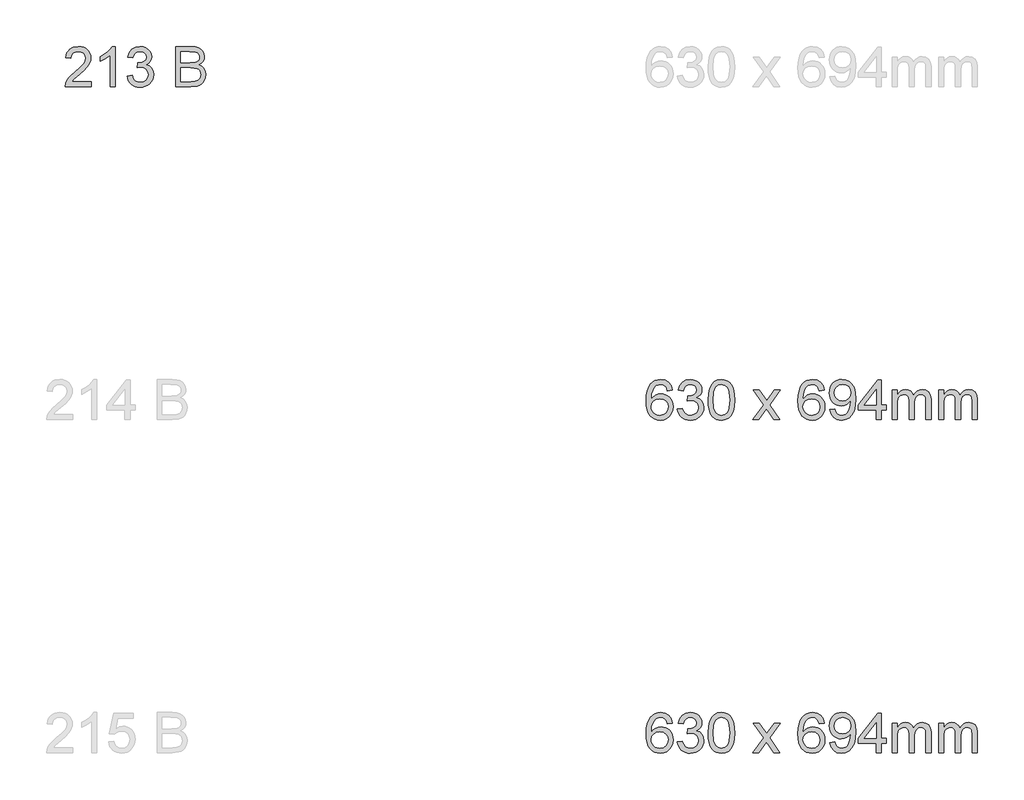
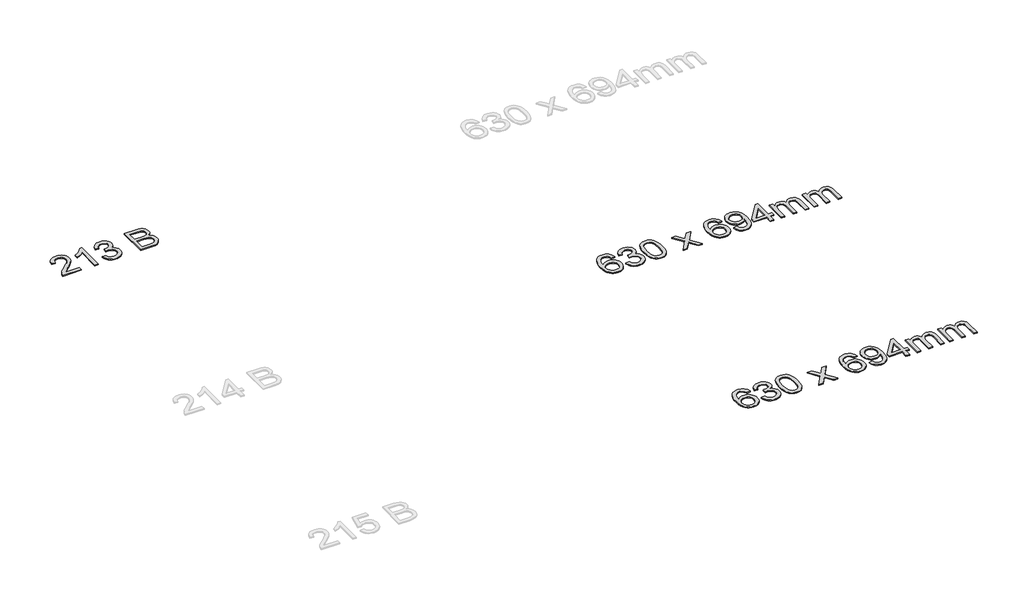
# One storey, part 31 of 35: 3 proxies.
"""IFC4 building model written with IfcOpenShell, lengths in millimetres."""

import ifcopenshell
import ifcopenshell.guid

model = None  # the IFC model being written
_history = None  # IfcOwnerHistory: only IFC2X3 demands one
_inside = {}  # id of a spatial element -> (the spatial element, [elements in it])
_under = {}  # id of a project, library or spatial element -> (it, [spatial elements below it])
_declared = {}  # id of a project -> (the project, [libraries it declares])
_typed = {}  # id of a type object -> (the type object, [elements of that type])
_made_of = {}  # id of a material, layer set ... -> (it, [elements and type objects made of it])


def new_model(schema):
    """Start an empty IFC model of exactly this schema.

    Asked for "IFC4X3", IfcOpenShell would pick the latest addendum, in which some entities
    have other attributes; the version numbers below select the first issue.
    IFC2X3 requires an IfcOwnerHistory on every rooted entity: one is made here for all.
    """
    global model, _history
    if schema == "IFC4X3":
        model = ifcopenshell.file(schema_version=(4, 3, 0, 0))
    else:
        model = ifcopenshell.file(schema=schema)
    _inside.clear()
    _under.clear()
    _declared.clear()
    _typed.clear()
    _made_of.clear()
    _history = None
    if model.schema == "IFC2X3":
        org = make("IfcOrganization", Name="unknown")
        user = make(
            "IfcPersonAndOrganization",
            ThePerson=make("IfcPerson", FamilyName="unknown"),
            TheOrganization=org,
        )
        app = make(
            "IfcApplication",
            ApplicationDeveloper=org,
            Version="unknown",
            ApplicationFullName="unknown",
            ApplicationIdentifier="unknown",
        )
        _history = make(
            "IfcOwnerHistory",
            OwningUser=user,
            OwningApplication=app,
            ChangeAction="ADDED",
            CreationDate=0,
        )
    return model


def make(cls, **values):
    """One entity of the class cls with the attributes given. An attribute that is None is left unset."""
    return model.create_entity(
        cls, **{name: value for name, value in values.items() if value is not None}
    )


def rooted(cls, **values):
    """An entity with a GlobalId (a new one), such as an element, a storey or a relation."""
    return make(cls, GlobalId=ifcopenshell.guid.new(), OwnerHistory=_history, **values)


def si_unit(unit_type, name, prefix=None):
    """IfcSIUnit, for example si_unit("LENGTHUNIT", "METRE", prefix="MILLI")."""
    return make("IfcSIUnit", UnitType=unit_type, Prefix=prefix, Name=name)


def assignment(units):
    """IfcUnitAssignment: the units of a project."""
    return None if units is None else make("IfcUnitAssignment", Units=units)


def point(xyz):
    """IfcCartesianPoint."""
    return None if xyz is None else make("IfcCartesianPoint", Coordinates=xyz)


def direction(xyz):
    """IfcDirection."""
    return None if xyz is None else make("IfcDirection", DirectionRatios=xyz)


def frame(location, z_axis=None, x_axis=None):
    """IfcAxis2Placement3D, a coordinate frame: its origin and axes. An axis left out is left unset."""
    return make(
        "IfcAxis2Placement3D",
        Location=point(location),
        Axis=direction(z_axis),
        RefDirection=direction(x_axis),
    )


def origin():
    """The frame at (0, 0, 0) with its axes left unset."""
    return frame((0.0, 0.0, 0.0))


def origin_with_axes():
    """The frame at (0, 0, 0) with the z axis (0, 0, 1) and the x axis (1, 0, 0) written out."""
    return frame((0.0, 0.0, 0.0), z_axis=(0.0, 0.0, 1.0), x_axis=(1.0, 0.0, 0.0))


def place(relative_to, where):
    """IfcLocalPlacement: puts the frame where relative to a parent placement (None: the world)."""
    return make(
        "IfcLocalPlacement", PlacementRelTo=relative_to, RelativePlacement=where
    )


def context(
    kind, dimensions, precision=None, world=None, true_north=None, identifier=None
):
    """IfcGeometricRepresentationContext, for example the 3D "Model" context."""
    return make(
        "IfcGeometricRepresentationContext",
        ContextIdentifier=identifier,
        ContextType=kind,
        CoordinateSpaceDimension=dimensions,
        Precision=precision,
        WorldCoordinateSystem=world,
        TrueNorth=true_north,
    )


def project(units=None, contexts=None):
    """IfcProject with its units and contexts."""
    return rooted(
        "IfcProject",
        Name="project",
        RepresentationContexts=contexts,
        UnitsInContext=assignment(units),
    )


def spatial(cls, under=None, at=None, **own):
    """A site, building, storey or space (cls), placed at a placement, below another one or the project."""
    s = rooted(cls, ObjectPlacement=at, **own)
    if under is not None:
        _under.setdefault(under.id(), (under, []))[1].append(s)
    return s


def polyline(points):
    """IfcPolyline through the points."""
    return make("IfcPolyline", Points=[point(p) for p in points])


def outline(outer, holes=None, kind="AREA"):
    """IfcArbitraryClosedProfileDef: a profile drawn as a closed curve; with holes, ...WithVoids."""
    if holes is None:
        return make("IfcArbitraryClosedProfileDef", ProfileType=kind, OuterCurve=outer)
    return make(
        "IfcArbitraryProfileDefWithVoids",
        ProfileType=kind,
        OuterCurve=outer,
        InnerCurves=holes,
    )


def extrude(swept, where, along, depth):
    """IfcExtrudedAreaSolid: the profile swept, set in the frame where, extruded along a direction by depth."""
    return make(
        "IfcExtrudedAreaSolid",
        SweptArea=swept,
        Position=where,
        ExtrudedDirection=direction(along),
        Depth=depth,
    )


def shape(context_of_items, identifier, shape_type, items):
    """IfcShapeRepresentation: the items that make up one representation, for example the "Body"."""
    return make(
        "IfcShapeRepresentation",
        ContextOfItems=context_of_items,
        RepresentationIdentifier=identifier,
        RepresentationType=shape_type,
        Items=items,
    )


def made_of(thing, what):
    """Note that an element or type object is made of a material, layer set ...; save() writes the relation."""
    if what is not None:
        _made_of.setdefault(what.id(), (what, []))[1].append(thing)
    return thing


def element(
    cls,
    number,
    at=None,
    inside=None,
    cuts=None,
    type_object=None,
    material=None,
    context=None,
    identifier="Body",
    shape_type=None,
    held_by="IfcProductDefinitionShape",
    body=None,
    shapes=None,
    **own,
):
    """One element of the class cls, such as IfcWall. Its Tag is "e" and its number.

    at: its placement. inside: the storey or other place that contains it. cuts: it is an
    opening in that element (IfcRelVoidsElement). A single representation is given by context,
    identifier, shape_type and body (its items); several are given by shapes. held_by: the class
    of the entity that holds the representations. save() writes the other relations.
    """
    e = rooted(cls, Tag="e%d" % number, ObjectPlacement=at, **own)
    if body is not None:
        shapes = [shape(context, identifier, shape_type, body)]
    if shapes is not None:
        e.Representation = make(held_by, Representations=shapes)
    if inside is not None:
        _inside.setdefault(inside.id(), (inside, []))[1].append(e)
    if cuts is not None:
        rooted(
            "IfcRelVoidsElement", RelatingBuildingElement=cuts, RelatedOpeningElement=e
        )
    if type_object is not None:
        _typed.setdefault(type_object.id(), (type_object, []))[1].append(e)
    return made_of(e, material)


def aggregate(whole, parts):
    """IfcRelAggregates: a whole, such as a stair, and the parts it consists of."""
    return rooted("IfcRelAggregates", RelatingObject=whole, RelatedObjects=parts)


def save(model, path):
    """Write the relations noted so far, then the file.

    IfcRelAggregates (storeys below a building ...), IfcRelContainedInSpatialStructure (elements
    in a storey), IfcRelDefinesByType, IfcRelAssociatesMaterial and IfcRelDeclares: one each for
    every whole, place, type object, material and project.
    """
    for whole, parts in _under.values():
        aggregate(whole, parts)
    for where, things in _inside.values():
        rooted(
            "IfcRelContainedInSpatialStructure",
            RelatedElements=things,
            RelatingStructure=where,
        )
    for kind, things in _typed.values():
        rooted("IfcRelDefinesByType", RelatedObjects=things, RelatingType=kind)
    for what, things in _made_of.values():
        rooted("IfcRelAssociatesMaterial", RelatedObjects=things, RelatingMaterial=what)
    for by, libraries in _declared.values():
        rooted("IfcRelDeclares", RelatingContext=by, RelatedDefinitions=libraries)
    model.write(path)


model = new_model("IFC4")

# Units and contexts
model_context = context("Model", 3, world=origin())
ifc_project = project(units=[si_unit("LENGTHUNIT", "METRE", prefix="MILLI")], contexts=[model_context])

# Site, building, storey
site = spatial("IfcSite", under=ifc_project)
building = spatial("IfcBuilding", under=site)
storey = spatial("IfcBuildingStorey", under=building, Name="Marelli - Linha YOU - Planta Baixa", Elevation=0.0)

# Proxies
placement = place(None, origin())
element("IfcBuildingElementProxy", 1, Name="300mm Arial", ObjectType="300mm Arial", at=placement, inside=storey, context=model_context, shape_type="SweptSolid", body=[
    extrude(outline(polyline([(-29510.11462, 6257.1047962), (-29510.11462, 6219.4336799), (-29707.8879806, 6219.4336799), (-29703.8412787, 6245.4061488), (-29694.5522583, 6265.7040379), (-29680.9590186, 6285.3949217), (-29661.2957259, 6306.0055104), (-29633.7965468, 6329.0625145), (-29593.1455863, 6365.1701323), (-29568.75501, 6391.8231829), (-29556.5597219, 6413.4546442), (-29552.4946258, 6434.4974943), (-29556.3297956, 6453.3606436), (-29567.835305, 6469.0416137), (-29585.521232, 6479.609024), (-29607.8976543, 6483.1314941), (-29631.3961168, 6479.6917974), (-29649.6522608, 6469.3727075), (-29661.4336817, 6452.9835646), (-29665.5079748, 6431.3337092), (-29703.1790911, 6436.0425987), (-29694.0464205, 6472.4813103), (-29685.5000619, 6487.0172476), (-29674.3003544, 6499.0975727), (-29660.7048155, 6508.5935267), (-29644.9709624, 6515.376351), (-29607.0883139, 6520.8026104), (-29586.8984902, 6519.2942942), (-29568.929754, 6514.7693457), (-29553.1821053, 6507.2277648), (-29539.6555442, 6496.6695515), (-29528.791529, 6483.8764551), (-29521.0315182, 6469.6302249), (-29516.3755117, 6453.9308607), (-29514.8235095, 6436.7783627), (-29516.4973726, 6418.761342), (-29521.5189619, 6401.057021), (-29530.4309032, 6383.0491973), (-29543.7758226, 6364.1216686), (-29565.0485989, 6341.5245171), (-29597.7441113, 6312.5078247), (-29641.0806103, 6276.2714482), (-29658.0767585, 6257.1047962), (-29510.11462, 6257.1047962)])), origin_with_axes(), (0.0, 0.0, 1.0), 10.0),
    extrude(outline(polyline([(-29331.1768175, 6219.4336799), (-29368.8479339, 6219.4336799), (-29368.8479339, 6454.2895457), (-29404.5324874, 6428.8688998), (-29444.1901665, 6409.8494006), (-29444.1901665, 6445.4603778), (-29414.603257, 6461.5552151), (-29388.971079, 6480.7034729), (-29368.7651604, 6501.0657413), (-29355.4570292, 6520.8026104), (-29331.1768175, 6520.8026104), (-29331.1768175, 6219.4336799)])), origin_with_axes(), (0.0, 0.0, 1.0), 10.0),
    extrude(outline(polyline([(-29241.7079163, 6299.4848021), (-29204.0368, 6304.1936916), (-29195.6031053, 6280.5204852), (-29183.2514673, 6264.5360125), (-29166.3748808, 6255.4309332), (-29144.3663404, 6252.3959067), (-29118.5410243, 6256.5713673), (-29098.6018202, 6269.0977493), (-29085.8547091, 6287.7861546), (-29081.605672, 6310.4476855), (-29085.8179209, 6331.9595852), (-29098.4546674, 6349.4063888), (-29117.5845311, 6360.9670805), (-29141.2761316, 6364.8206444), (-29167.6900589, 6360.7003661), (-29163.4962041, 6398.3714824), (-29157.4629394, 6397.930024), (-29134.893379, 6400.6339567), (-29114.7150516, 6408.7457546), (-29100.4780184, 6422.4677531), (-29095.7323406, 6442.002287), (-29099.1720373, 6458.2718683), (-29109.4911273, 6471.4696348), (-29125.2364766, 6480.2160293), (-29144.9549516, 6483.1314941), (-29164.7102147, 6480.1884381), (-29180.8602343, 6471.3592702), (-29192.6508523, 6456.6439904), (-29199.3279105, 6436.0425987), (-29236.9990268, 6440.7514882), (-29225.9073846, 6474.5782377), (-29206.1705156, 6499.8333367), (-29179.1679771, 6515.5602919), (-29146.2793268, 6520.8026104), (-29122.5969233, 6518.2182394), (-29100.8459004, 6510.4651263), (-29082.5069829, 6498.23305), (-29069.060896, 6482.2117891), (-29060.8111422, 6463.75331), (-29058.0612243, 6444.209579), (-29060.6731865, 6425.9994202), (-29068.509073, 6409.4815186), (-29081.4585192, 6395.4100323), (-29099.4111606, 6384.5391194), (-29075.8299247, 6375.0109757), (-29058.3555299, 6358.7873797), (-29047.5397993, 6336.7512482), (-29043.9345557, 6309.7854979), (-29045.7371775, 6290.6740283), (-29051.1450428, 6273.0708748), (-29060.1581517, 6256.9760375), (-29072.7765041, 6242.3895164), (-29088.149373, 6230.2861988), (-29105.4260312, 6221.6409719), (-29124.6064787, 6216.4538358), (-29145.6907156, 6214.7247904), (-29164.7470029, 6216.2009169), (-29182.1110331, 6220.6292964), (-29197.7828061, 6228.0099289), (-29211.7623219, 6238.3428145), (-29223.483962, 6251.0209477), (-29232.3821077, 6265.4373234), (-29238.4567592, 6281.5919415), (-29241.7079163, 6299.4848021)])), origin_with_axes(), (0.0, 0.0, 1.0), 10.0),
    extrude(outline(polyline([(-28879.1234219, 6219.4336799), (-28879.1234219, 6520.8026104), (-28764.1235102, 6520.8026104), (-28732.4948556, 6518.5861214), (-28707.8007767, 6511.9366543), (-28688.8732481, 6500.6886623), (-28674.5442444, 6484.6765985), (-28665.5219384, 6465.8410403), (-28662.5145031, 6446.1225654), (-28665.0436918, 6427.9767859), (-28672.631258, 6410.9162584), (-28685.3323839, 6395.9894465), (-28703.2022518, 6384.2448138), (-28681.855899, 6373.0979893), (-28666.0829585, 6356.1386293), (-28656.3432826, 6334.4887739), (-28653.096724, 6309.2704632), (-28655.3132131, 6288.2552042), (-28661.9626801, 6268.7666555), (-28671.8862969, 6252.1935716), (-28683.9252352, 6239.9247071), (-28698.6681062, 6231.0403569), (-28716.703521, 6224.6208161), (-28765.006427, 6219.4336799), (-28879.1234219, 6219.4336799)]), holes=[polyline([(-28841.4523056, 6398.3714824), (-28772.6583725, 6398.3714824), (-28732.4856586, 6401.6088439), (-28718.4233693, 6407.1914532), (-28708.3158115, 6415.5515716), (-28702.2181674, 6426.5604403), (-28700.1856194, 6440.0893006), (-28702.0802117, 6453.2226879), (-28707.7639885, 6464.6638179), (-28716.9794325, 6473.5941533), (-28729.4690262, 6479.1951567), (-28777.8822968, 6483.1314941), (-28841.4523056, 6483.1314941), (-28841.4523056, 6398.3714824)]), polyline([(-28841.4523056, 6257.1047962), (-28764.1970866, 6257.1047962), (-28736.2380549, 6258.5763242), (-28712.5832427, 6266.7800927), (-28696.9114697, 6283.5187235), (-28692.3037477, 6295.3461296), (-28690.7678403, 6308.9025812), (-28692.5704621, 6324.6479306), (-28697.9783274, 6338.185988), (-28707.4236977, 6348.7717924), (-28721.3388341, 6355.6603827), (-28741.048112, 6359.4403702), (-28767.8759065, 6360.7003661), (-28841.4523056, 6360.7003661), (-28841.4523056, 6257.1047962)])]), origin_with_axes(), (0.0, 0.0, 1.0), 10.0),
])
element("IfcBuildingElementProxy", 2, Name="300mm Arial", ObjectType="300mm Arial", at=placement, inside=storey, context=model_context, shape_type="SweptSolid", body=[
    extrude(outline(polyline([(-25150.5235972, 3940.7514882), (-25188.1947135, 3936.0425987), (-25194.2647664, 3954.7126099), (-25202.4685349, 3967.4597211), (-25219.5566536, 3979.2135508), (-25240.2132276, 3983.1314941), (-25257.7244106, 3980.8506257), (-25274.205524, 3974.0080206), (-25288.3597837, 3959.5962434), (-25299.9204754, 3939.7582068), (-25307.7287708, 3911.6980077), (-25310.6258415, 3872.6197427), (-25295.5150886, 3890.2504873), (-25277.4060973, 3902.6757017), (-25257.3105434, 3910.0425387), (-25236.2401021, 3912.498151), (-25218.1403079, 3910.8196894), (-25201.4384653, 3905.7843046), (-25186.1345743, 3897.3919966), (-25172.2286349, 3885.6427654), (-25160.6725417, 3871.2355867), (-25152.4181895, 3854.8694365), (-25147.4655781, 3836.5443146), (-25145.8147077, 3816.2602211), (-25148.9233105, 3789.2852738), (-25158.2491191, 3764.2784951), (-25173.0195812, 3743.0700981), (-25192.4621447, 3727.4902956), (-25215.6938927, 3717.9161667), (-25241.8319084, 3714.7247904), (-25264.288805, 3716.8401119), (-25284.5705992, 3723.1860763), (-25302.6772911, 3733.7626836), (-25318.6088808, 3748.5699339), (-25331.5974145, 3768.2332266), (-25340.8749386, 3793.377961), (-25346.441453, 3824.0041371), (-25348.2969578, 3860.1117549), (-25346.2368186, 3900.5925699), (-25340.0564011, 3935.1412878), (-25329.7557053, 3963.7579085), (-25315.334731, 3986.442432), (-25299.7043448, 4001.4750101), (-25281.581558, 4012.2125658), (-25260.9663707, 4018.6550992), (-25237.8587829, 4020.8026104), (-25204.8045856, 4015.4867156), (-25178.335476, 3999.5390311), (-25159.7942235, 3974.2103557), (-25150.5235972, 3940.7514882)]), holes=[polyline([(-25310.6258415, 3816.8488323), (-25308.4461407, 3800.1561867), (-25301.9070382, 3784.2176993), (-25291.7534952, 3770.514095), (-25278.7304725, 3760.5260988), (-25263.0127143, 3754.4284547), (-25244.7749644, 3752.3959067), (-25219.9153385, 3756.6081555), (-25200.3716076, 3769.2449021), (-25187.7072699, 3789.1105298), (-25183.485824, 3815.0094223), (-25187.6520876, 3839.8690481), (-25200.1508784, 3858.8241679), (-25220.0257031, 3870.826318), (-25246.3200687, 3874.8270347), (-25271.1429064, 3870.826318), (-25291.900648, 3858.8241679), (-25305.9445431, 3840.3289006), (-25310.6258415, 3816.8488323)])]), origin_with_axes(), (0.0, 0.0, 1.0), 10.0),
    extrude(outline(polyline([(-25112.8524809, 3799.4848021), (-25075.1813646, 3804.1936916), (-25066.7476699, 3780.5204852), (-25054.3960319, 3764.5360125), (-25037.5194453, 3755.4309332), (-25015.510905, 3752.3959067), (-24989.6855889, 3756.5713673), (-24969.7463848, 3769.0977493), (-24956.9992736, 3787.7861546), (-24952.7502366, 3810.4476855), (-24956.9624854, 3831.9595852), (-24969.599232, 3849.4063888), (-24988.7290957, 3860.9670805), (-25012.4206962, 3864.8206444), (-25038.8346235, 3860.7003661), (-25034.6407687, 3898.3714824), (-25028.607504, 3897.930024), (-25006.0379436, 3900.6339567), (-24985.8596162, 3908.7457546), (-24971.622583, 3922.4677531), (-24966.8769052, 3942.002287), (-24970.3166019, 3958.2718683), (-24980.6356918, 3971.4696348), (-24996.3810412, 3980.2160293), (-25016.0995162, 3983.1314941), (-25035.8547793, 3980.1884381), (-25052.0047989, 3971.3592702), (-25063.7954168, 3956.6439904), (-25070.4724751, 3936.0425987), (-25108.1435914, 3940.7514882), (-25097.0519492, 3974.5782377), (-25077.3150802, 3999.8333367), (-25050.3125417, 4015.5602919), (-25017.4238914, 4020.8026104), (-24993.7414879, 4018.2182394), (-24971.9904649, 4010.4651263), (-24953.6515475, 3998.23305), (-24940.2054606, 3982.2117891), (-24931.9557068, 3963.75331), (-24929.2057889, 3944.209579), (-24931.8177511, 3925.9994202), (-24939.6536376, 3909.4815186), (-24952.6030838, 3895.4100323), (-24970.5557252, 3884.5391194), (-24946.9744893, 3875.0109757), (-24929.5000945, 3858.7873797), (-24918.6843638, 3836.7512482), (-24915.0791203, 3809.7854979), (-24916.8817421, 3790.6740283), (-24922.2896074, 3773.0708748), (-24931.3027163, 3756.9760375), (-24943.9210687, 3742.3895164), (-24959.2939376, 3730.2861988), (-24976.5705958, 3721.6409719), (-24995.7510433, 3716.4538358), (-25016.8352802, 3714.7247904), (-25035.8915675, 3716.2009169), (-25053.2555977, 3720.6292964), (-25068.9273707, 3728.0099289), (-25082.9068865, 3738.3428145), (-25094.6285266, 3751.0209477), (-25103.5266723, 3765.4373234), (-25109.6013238, 3781.5919415), (-25112.8524809, 3799.4848021)])), origin_with_axes(), (0.0, 0.0, 1.0), 10.0),
    extrude(outline(polyline([(-24882.1168935, 3867.690124), (-24879.3485815, 3915.9286506), (-24871.0436455, 3954.3999103), (-24857.2848588, 3983.6925141), (-24838.1549951, 4004.3950734), (-24813.5160985, 4016.7007261), (-24783.2302132, 4020.8026104), (-24760.0168593, 4018.3745892), (-24739.2315266, 4011.0905257), (-24721.8491023, 3999.2355284), (-24708.8444738, 3983.0947059), (-24699.0220245, 3962.8060138), (-24691.186138, 3938.5074081), (-24686.0541842, 3907.6513057), (-24684.3435329, 3867.690124), (-24687.0842538, 3819.7275089), (-24695.3064164, 3781.3482197), (-24708.9824295, 3752.0280247), (-24728.0847021, 3731.242692), (-24752.7787811, 3718.8542658), (-24783.2302132, 3714.7247904), (-24803.9787577, 3716.5182151), (-24822.3728575, 3721.8984893), (-24838.4125125, 3730.8656129), (-24852.0977227, 3743.419586), (-24865.2311099, 3766.1133066), (-24874.6121008, 3794.3896364), (-24880.2406953, 3828.2485756), (-24882.1168935, 3867.690124)]), holes=[polyline([(-24844.4457772, 3867.7637004), (-24840.0311933, 3808.507108), (-24834.5129633, 3788.2391093), (-24826.7874414, 3774.211309), (-24807.0689665, 3757.8497573), (-24783.2302132, 3752.3959067), (-24759.3914599, 3757.8681514), (-24739.672985, 3774.2848854), (-24731.9474631, 3788.3356784), (-24726.4292332, 3808.5990785), (-24722.0146492, 3867.7637004), (-24726.2820804, 3925.6867205), (-24731.6163693, 3945.8880406), (-24739.0843738, 3960.249234), (-24758.7660605, 3977.410929), (-24783.6716716, 3983.1314941), (-24807.2529075, 3978.0915107), (-24826.1988303, 3962.9715607), (-24834.1818696, 3947.3365759), (-24839.8840405, 3926.2569376), (-24844.4457772, 3867.7637004)])]), origin_with_axes(), (0.0, 0.0, 1.0), 10.0),
    extrude(outline(polyline([(-24547.7857363, 3719.4336799), (-24467.2931558, 3830.6811953), (-24543.0768468, 3940.7514882), (-24497.753785, 3940.7514882), (-24461.1863146, 3887.7764809), (-24444.1165901, 3862.7605053), (-24429.3277339, 3883.2147442), (-24387.683492, 3940.7514882), (-24342.3604302, 3940.7514882), (-24421.970094, 3830.6811953), (-24345.3034862, 3719.4336799), (-24390.626548, 3719.4336799), (-24436.7589502, 3786.3146267), (-24445.2202361, 3798.5283089), (-24502.4626745, 3719.4336799), (-24547.7857363, 3719.4336799)])), origin_with_axes(), (0.0, 0.0, 1.0), 10.0),
    extrude(outline(polyline([(-24010.9723289, 3940.7514882), (-24048.6434453, 3936.0425987), (-24054.7134982, 3954.7126099), (-24062.9172667, 3967.4597211), (-24080.0053853, 3979.2135508), (-24100.6619594, 3983.1314941), (-24118.1731423, 3980.8506257), (-24134.6542557, 3974.0080206), (-24148.8085155, 3959.5962434), (-24160.3692072, 3939.7582068), (-24168.1775025, 3911.6980077), (-24171.0745732, 3872.6197427), (-24155.9638203, 3890.2504873), (-24137.8548291, 3902.6757017), (-24117.7592751, 3910.0425387), (-24096.6888338, 3912.498151), (-24078.5890397, 3910.8196894), (-24061.8871971, 3905.7843046), (-24046.5833061, 3897.3919966), (-24032.6773667, 3885.6427654), (-24021.1212735, 3871.2355867), (-24012.8669212, 3854.8694365), (-24007.9143099, 3836.5443146), (-24006.2634394, 3816.2602211), (-24009.3720423, 3789.2852738), (-24018.6978508, 3764.2784951), (-24033.468313, 3743.0700981), (-24052.9108764, 3727.4902956), (-24076.1426244, 3717.9161667), (-24102.2806401, 3714.7247904), (-24124.7375367, 3716.8401119), (-24145.0193309, 3723.1860763), (-24163.1260229, 3733.7626836), (-24179.0576125, 3748.5699339), (-24192.0461462, 3768.2332266), (-24201.3236703, 3793.377961), (-24206.8901847, 3824.0041371), (-24208.7456896, 3860.1117549), (-24206.6855504, 3900.5925699), (-24200.5051329, 3935.1412878), (-24190.204437, 3963.7579085), (-24175.7834628, 3986.442432), (-24160.1530765, 4001.4750101), (-24142.0302897, 4012.2125658), (-24121.4151024, 4018.6550992), (-24098.3075146, 4020.8026104), (-24065.2533173, 4015.4867156), (-24038.7842078, 3999.5390311), (-24020.2429552, 3974.2103557), (-24010.9723289, 3940.7514882)]), holes=[polyline([(-24171.0745732, 3816.8488323), (-24168.8948724, 3800.1561867), (-24162.35577, 3784.2176993), (-24152.2022269, 3770.514095), (-24139.1792043, 3760.5260988), (-24123.461446, 3754.4284547), (-24105.2236961, 3752.3959067), (-24080.3640703, 3756.6081555), (-24060.8203393, 3769.2449021), (-24048.1560016, 3789.1105298), (-24043.9345557, 3815.0094223), (-24048.1008193, 3839.8690481), (-24060.5996101, 3858.8241679), (-24080.4744349, 3870.826318), (-24106.7688005, 3874.8270347), (-24131.5916381, 3870.826318), (-24152.3493797, 3858.8241679), (-24166.3932749, 3840.3289006), (-24171.0745732, 3816.8488323)])]), origin_with_axes(), (0.0, 0.0, 1.0), 10.0),
    extrude(outline(polyline([(-23968.5923231, 3794.7759125), (-23930.9212068, 3799.4848021), (-23924.4832719, 3778.1016611), (-23913.998635, 3763.5427312), (-23899.7248136, 3755.1826128), (-23881.919325, 3752.3959067), (-23865.9440494, 3754.1893314), (-23851.4219076, 3759.5696056), (-23839.3553782, 3767.948118), (-23830.7469395, 3778.7362576), (-23818.4228927, 3811.4777551), (-23812.9782391, 3855.1821362), (-23813.1989683, 3862.5397761), (-23826.2495821, 3846.6104857), (-23843.3285037, 3833.9921332), (-23863.2033285, 3825.7699706), (-23884.6416518, 3823.0292498), (-23902.5368116, 3824.7031129), (-23918.9926331, 3829.7247021), (-23934.0091163, 3838.0940175), (-23947.5862612, 3849.811059), (-23958.8365524, 3864.2642229), (-23966.8724748, 3880.8419053), (-23971.6940282, 3899.5441062), (-23973.3012126, 3920.3708257), (-23971.6158532, 3941.8919224), (-23966.5597751, 3961.2057272), (-23958.1329781, 3978.3122399), (-23946.3354624, 3993.2114607), (-23931.9995609, 4005.2825887), (-23915.9576066, 4013.904823), (-23898.2095996, 4019.0781635), (-23878.7555399, 4020.8026104), (-23850.6585525, 4016.866273), (-23825.0815568, 4005.057261), (-23803.6892188, 3985.9641854), (-23788.1462045, 3960.1756576), (-23778.6824401, 3924.5278922), (-23775.527852, 3875.8571043), (-23778.6732431, 3824.2524574), (-23788.1094163, 3784.3648521), (-23803.7535981, 3754.3916665), (-23825.5230152, 3732.530279), (-23852.4795684, 3719.1761625), (-23883.6851586, 3714.7247904), (-23915.8932273, 3719.9763059), (-23941.5897847, 3735.7308523), (-23959.5608201, 3760.9951483), (-23968.5923231, 3794.7759125)]), holes=[polyline([(-23813.1989683, 3921.2537425), (-23817.2640644, 3946.784753), (-23829.4593525, 3966.4296515), (-23848.3868812, 3978.9560334), (-23872.6486988, 3983.1314941), (-23897.8118272, 3978.6341367), (-23917.9717606, 3965.1420645), (-23931.2155124, 3944.4946875), (-23935.6300963, 3918.5314157), (-23931.4546357, 3895.2536825), (-23918.9282538, 3876.7768093), (-23899.2649611, 3864.7194769), (-23873.6787683, 3860.7003661), (-23849.6100888, 3864.7194769), (-23830.2319047, 3876.7768093), (-23817.4572024, 3895.9342642), (-23813.1989683, 3921.2537425)])]), origin_with_axes(), (0.0, 0.0, 1.0), 10.0),
    extrude(outline(polyline([(-23620.1344973, 3719.4336799), (-23620.1344973, 3790.067023), (-23756.6922939, 3790.067023), (-23756.6922939, 3827.7381393), (-23610.7167182, 4016.0937208), (-23582.463381, 4016.0937208), (-23582.463381, 3827.7381393), (-23544.7922647, 3827.7381393), (-23544.7922647, 3790.067023), (-23582.463381, 3790.067023), (-23582.463381, 3719.4336799), (-23620.1344973, 3719.4336799)]), holes=[polyline([(-23620.1344973, 3827.7381393), (-23620.1344973, 3944.1360026), (-23710.3391625, 3827.7381393), (-23620.1344973, 3827.7381393)])]), origin_with_axes(), (0.0, 0.0, 1.0), 10.0),
    extrude(outline(polyline([(-23502.4122588, 3719.4336799), (-23502.4122588, 3940.7514882), (-23464.7411425, 3940.7514882), (-23464.7411425, 3904.3311707), (-23453.4103771, 3921.0606044), (-23438.84225, 3934.1664005), (-23421.5334022, 3942.6368835), (-23401.9804741, 3945.4603778), (-23381.0295945, 3942.5817012), (-23364.2357814, 3933.9456713), (-23351.6910054, 3920.1225054), (-23343.4872369, 3901.6824203), (-23329.7560414, 3920.8352767), (-23314.0934655, 3934.5158884), (-23296.4995091, 3942.7242554), (-23276.9741722, 3945.4603778), (-23248.6564556, 3940.9078381), (-23227.714773, 3927.250219), (-23214.7745238, 3904.1196386), (-23210.4611074, 3871.1482147), (-23210.4611074, 3719.4336799), (-23248.1322237, 3719.4336799), (-23248.1322237, 3854.961407), (-23251.6271027, 3886.4153175), (-23256.5383273, 3895.0881356), (-23264.2822433, 3901.9031495), (-23274.2426484, 3906.3177335), (-23285.8033401, 3907.7892615), (-23306.2115937, 3904.018471), (-23322.849057, 3892.7060997), (-23333.913108, 3873.0795952), (-23337.601125, 3844.3664055), (-23337.601125, 3719.4336799), (-23375.2722413, 3719.4336799), (-23375.2722413, 3859.1552617), (-23377.4519421, 3880.4556292), (-23383.9910446, 3895.6491556), (-23395.496554, 3904.754235), (-23412.5754756, 3907.7892615), (-23427.0884203, 3905.7659105), (-23440.4609308, 3899.6958576), (-23451.4973907, 3889.7262555), (-23459.0021834, 3876.0042571), (-23463.3064027, 3856.9663638), (-23464.7411425, 3831.0490773), (-23464.7411425, 3719.4336799), (-23502.4122588, 3719.4336799)])), origin_with_axes(), (0.0, 0.0, 1.0), 10.0),
    extrude(outline(polyline([(-23153.954433, 3719.4336799), (-23153.954433, 3940.7514882), (-23116.2833167, 3940.7514882), (-23116.2833167, 3904.3311707), (-23104.9525512, 3921.0606044), (-23090.3844242, 3934.1664005), (-23073.0755763, 3942.6368835), (-23053.5226483, 3945.4603778), (-23032.5717687, 3942.5817012), (-23015.7779556, 3933.9456713), (-23003.2331796, 3920.1225054), (-22995.0294111, 3901.6824203), (-22981.2982156, 3920.8352767), (-22965.6356397, 3934.5158884), (-22948.0416832, 3942.7242554), (-22928.5163463, 3945.4603778), (-22900.1986298, 3940.9078381), (-22879.2569472, 3927.250219), (-22866.316698, 3904.1196386), (-22862.0032816, 3871.1482147), (-22862.0032816, 3719.4336799), (-22899.6743979, 3719.4336799), (-22899.6743979, 3854.961407), (-22903.1692769, 3886.4153175), (-22908.0805015, 3895.0881356), (-22915.8244175, 3901.9031495), (-22925.7848225, 3906.3177335), (-22937.3455142, 3907.7892615), (-22957.7537679, 3904.018471), (-22974.3912311, 3892.7060997), (-22985.4552821, 3873.0795952), (-22989.1432991, 3844.3664055), (-22989.1432991, 3719.4336799), (-23026.8144154, 3719.4336799), (-23026.8144154, 3859.1552617), (-23028.9941163, 3880.4556292), (-23035.5332187, 3895.6491556), (-23047.0387281, 3904.754235), (-23064.1176498, 3907.7892615), (-23078.6305945, 3905.7659105), (-23092.003105, 3899.6958576), (-23103.0395648, 3889.7262555), (-23110.5443576, 3876.0042571), (-23114.8485769, 3856.9663638), (-23116.2833167, 3831.0490773), (-23116.2833167, 3719.4336799), (-23153.954433, 3719.4336799)])), origin_with_axes(), (0.0, 0.0, 1.0), 10.0),
])
element("IfcBuildingElementProxy", 3, Name="300mm Arial", ObjectType="300mm Arial", at=placement, inside=storey, context=model_context, shape_type="SweptSolid", body=[
    extrude(outline(polyline([(-25150.5235972, 1440.7514882), (-25188.1947135, 1436.0425987), (-25194.2647664, 1454.7126099), (-25202.4685349, 1467.4597211), (-25219.5566536, 1479.2135508), (-25240.2132276, 1483.1314941), (-25257.7244106, 1480.8506257), (-25274.205524, 1474.0080206), (-25288.3597837, 1459.5962434), (-25299.9204754, 1439.7582068), (-25307.7287708, 1411.6980077), (-25310.6258415, 1372.6197427), (-25295.5150886, 1390.2504873), (-25277.4060973, 1402.6757017), (-25257.3105434, 1410.0425387), (-25236.2401021, 1412.498151), (-25218.1403079, 1410.8196894), (-25201.4384653, 1405.7843046), (-25186.1345743, 1397.3919966), (-25172.2286349, 1385.6427654), (-25160.6725417, 1371.2355867), (-25152.4181895, 1354.8694365), (-25147.4655781, 1336.5443146), (-25145.8147077, 1316.2602211), (-25148.9233105, 1289.2852738), (-25158.2491191, 1264.2784951), (-25173.0195812, 1243.0700981), (-25192.4621447, 1227.4902956), (-25215.6938927, 1217.9161667), (-25241.8319084, 1214.7247904), (-25264.288805, 1216.8401119), (-25284.5705992, 1223.1860763), (-25302.6772911, 1233.7626836), (-25318.6088808, 1248.5699339), (-25331.5974145, 1268.2332266), (-25340.8749386, 1293.377961), (-25346.441453, 1324.0041371), (-25348.2969578, 1360.1117549), (-25346.2368186, 1400.5925699), (-25340.0564011, 1435.1412878), (-25329.7557053, 1463.7579085), (-25315.334731, 1486.442432), (-25299.7043448, 1501.4750101), (-25281.581558, 1512.2125658), (-25260.9663707, 1518.6550992), (-25237.8587829, 1520.8026104), (-25204.8045856, 1515.4867156), (-25178.335476, 1499.5390311), (-25159.7942235, 1474.2103557), (-25150.5235972, 1440.7514882)]), holes=[polyline([(-25310.6258415, 1316.8488323), (-25308.4461407, 1300.1561867), (-25301.9070382, 1284.2176993), (-25291.7534952, 1270.514095), (-25278.7304725, 1260.5260988), (-25263.0127143, 1254.4284547), (-25244.7749644, 1252.3959067), (-25219.9153385, 1256.6081555), (-25200.3716076, 1269.2449021), (-25187.7072699, 1289.1105298), (-25183.485824, 1315.0094223), (-25187.6520876, 1339.8690481), (-25200.1508784, 1358.8241679), (-25220.0257031, 1370.826318), (-25246.3200687, 1374.8270347), (-25271.1429064, 1370.826318), (-25291.900648, 1358.8241679), (-25305.9445431, 1340.3289006), (-25310.6258415, 1316.8488323)])]), origin_with_axes(), (0.0, 0.0, 1.0), 10.0),
    extrude(outline(polyline([(-25112.8524809, 1299.4848021), (-25075.1813646, 1304.1936916), (-25066.7476699, 1280.5204852), (-25054.3960319, 1264.5360125), (-25037.5194453, 1255.4309332), (-25015.510905, 1252.3959067), (-24989.6855889, 1256.5713673), (-24969.7463848, 1269.0977493), (-24956.9992736, 1287.7861546), (-24952.7502366, 1310.4476855), (-24956.9624854, 1331.9595852), (-24969.599232, 1349.4063888), (-24988.7290957, 1360.9670805), (-25012.4206962, 1364.8206444), (-25038.8346235, 1360.7003661), (-25034.6407687, 1398.3714824), (-25028.607504, 1397.930024), (-25006.0379436, 1400.6339567), (-24985.8596162, 1408.7457546), (-24971.622583, 1422.4677531), (-24966.8769052, 1442.002287), (-24970.3166019, 1458.2718683), (-24980.6356918, 1471.4696348), (-24996.3810412, 1480.2160293), (-25016.0995162, 1483.1314941), (-25035.8547793, 1480.1884381), (-25052.0047989, 1471.3592702), (-25063.7954168, 1456.6439904), (-25070.4724751, 1436.0425987), (-25108.1435914, 1440.7514882), (-25097.0519492, 1474.5782377), (-25077.3150802, 1499.8333367), (-25050.3125417, 1515.5602919), (-25017.4238914, 1520.8026104), (-24993.7414879, 1518.2182394), (-24971.9904649, 1510.4651263), (-24953.6515475, 1498.23305), (-24940.2054606, 1482.2117891), (-24931.9557068, 1463.75331), (-24929.2057889, 1444.209579), (-24931.8177511, 1425.9994202), (-24939.6536376, 1409.4815186), (-24952.6030838, 1395.4100323), (-24970.5557252, 1384.5391194), (-24946.9744893, 1375.0109757), (-24929.5000945, 1358.7873797), (-24918.6843638, 1336.7512482), (-24915.0791203, 1309.7854979), (-24916.8817421, 1290.6740283), (-24922.2896074, 1273.0708748), (-24931.3027163, 1256.9760375), (-24943.9210687, 1242.3895164), (-24959.2939376, 1230.2861988), (-24976.5705958, 1221.6409719), (-24995.7510433, 1216.4538358), (-25016.8352802, 1214.7247904), (-25035.8915675, 1216.2009169), (-25053.2555977, 1220.6292964), (-25068.9273707, 1228.0099289), (-25082.9068865, 1238.3428145), (-25094.6285266, 1251.0209477), (-25103.5266723, 1265.4373234), (-25109.6013238, 1281.5919415), (-25112.8524809, 1299.4848021)])), origin_with_axes(), (0.0, 0.0, 1.0), 10.0),
    extrude(outline(polyline([(-24882.1168935, 1367.690124), (-24879.3485815, 1415.9286506), (-24871.0436455, 1454.3999103), (-24857.2848588, 1483.6925141), (-24838.1549951, 1504.3950734), (-24813.5160985, 1516.7007261), (-24783.2302132, 1520.8026104), (-24760.0168593, 1518.3745892), (-24739.2315266, 1511.0905257), (-24721.8491023, 1499.2355284), (-24708.8444738, 1483.0947059), (-24699.0220245, 1462.8060138), (-24691.186138, 1438.5074081), (-24686.0541842, 1407.6513057), (-24684.3435329, 1367.690124), (-24687.0842538, 1319.7275089), (-24695.3064164, 1281.3482197), (-24708.9824295, 1252.0280247), (-24728.0847021, 1231.242692), (-24752.7787811, 1218.8542658), (-24783.2302132, 1214.7247904), (-24803.9787577, 1216.5182151), (-24822.3728575, 1221.8984893), (-24838.4125125, 1230.8656129), (-24852.0977227, 1243.419586), (-24865.2311099, 1266.1133066), (-24874.6121008, 1294.3896364), (-24880.2406953, 1328.2485756), (-24882.1168935, 1367.690124)]), holes=[polyline([(-24844.4457772, 1367.7637004), (-24840.0311933, 1308.507108), (-24834.5129633, 1288.2391093), (-24826.7874414, 1274.211309), (-24807.0689665, 1257.8497573), (-24783.2302132, 1252.3959067), (-24759.3914599, 1257.8681514), (-24739.672985, 1274.2848854), (-24731.9474631, 1288.3356784), (-24726.4292332, 1308.5990785), (-24722.0146492, 1367.7637004), (-24726.2820804, 1425.6867205), (-24731.6163693, 1445.8880406), (-24739.0843738, 1460.249234), (-24758.7660605, 1477.410929), (-24783.6716716, 1483.1314941), (-24807.2529075, 1478.0915107), (-24826.1988303, 1462.9715607), (-24834.1818696, 1447.3365759), (-24839.8840405, 1426.2569376), (-24844.4457772, 1367.7637004)])]), origin_with_axes(), (0.0, 0.0, 1.0), 10.0),
    extrude(outline(polyline([(-24547.7857363, 1219.4336799), (-24467.2931558, 1330.6811953), (-24543.0768468, 1440.7514882), (-24497.753785, 1440.7514882), (-24461.1863146, 1387.7764809), (-24444.1165901, 1362.7605053), (-24429.3277339, 1383.2147442), (-24387.683492, 1440.7514882), (-24342.3604302, 1440.7514882), (-24421.970094, 1330.6811953), (-24345.3034862, 1219.4336799), (-24390.626548, 1219.4336799), (-24436.7589502, 1286.3146267), (-24445.2202361, 1298.5283089), (-24502.4626745, 1219.4336799), (-24547.7857363, 1219.4336799)])), origin_with_axes(), (0.0, 0.0, 1.0), 10.0),
    extrude(outline(polyline([(-24010.9723289, 1440.7514882), (-24048.6434453, 1436.0425987), (-24054.7134982, 1454.7126099), (-24062.9172667, 1467.4597211), (-24080.0053853, 1479.2135508), (-24100.6619594, 1483.1314941), (-24118.1731423, 1480.8506257), (-24134.6542557, 1474.0080206), (-24148.8085155, 1459.5962434), (-24160.3692072, 1439.7582068), (-24168.1775025, 1411.6980077), (-24171.0745732, 1372.6197427), (-24155.9638203, 1390.2504873), (-24137.8548291, 1402.6757017), (-24117.7592751, 1410.0425387), (-24096.6888338, 1412.498151), (-24078.5890397, 1410.8196894), (-24061.8871971, 1405.7843046), (-24046.5833061, 1397.3919966), (-24032.6773667, 1385.6427654), (-24021.1212735, 1371.2355867), (-24012.8669212, 1354.8694365), (-24007.9143099, 1336.5443146), (-24006.2634394, 1316.2602211), (-24009.3720423, 1289.2852738), (-24018.6978508, 1264.2784951), (-24033.468313, 1243.0700981), (-24052.9108764, 1227.4902956), (-24076.1426244, 1217.9161667), (-24102.2806401, 1214.7247904), (-24124.7375367, 1216.8401119), (-24145.0193309, 1223.1860763), (-24163.1260229, 1233.7626836), (-24179.0576125, 1248.5699339), (-24192.0461462, 1268.2332266), (-24201.3236703, 1293.377961), (-24206.8901847, 1324.0041371), (-24208.7456896, 1360.1117549), (-24206.6855504, 1400.5925699), (-24200.5051329, 1435.1412878), (-24190.204437, 1463.7579085), (-24175.7834628, 1486.442432), (-24160.1530765, 1501.4750101), (-24142.0302897, 1512.2125658), (-24121.4151024, 1518.6550992), (-24098.3075146, 1520.8026104), (-24065.2533173, 1515.4867156), (-24038.7842078, 1499.5390311), (-24020.2429552, 1474.2103557), (-24010.9723289, 1440.7514882)]), holes=[polyline([(-24171.0745732, 1316.8488323), (-24168.8948724, 1300.1561867), (-24162.35577, 1284.2176993), (-24152.2022269, 1270.514095), (-24139.1792043, 1260.5260988), (-24123.461446, 1254.4284547), (-24105.2236961, 1252.3959067), (-24080.3640703, 1256.6081555), (-24060.8203393, 1269.2449021), (-24048.1560016, 1289.1105298), (-24043.9345557, 1315.0094223), (-24048.1008193, 1339.8690481), (-24060.5996101, 1358.8241679), (-24080.4744349, 1370.826318), (-24106.7688005, 1374.8270347), (-24131.5916381, 1370.826318), (-24152.3493797, 1358.8241679), (-24166.3932749, 1340.3289006), (-24171.0745732, 1316.8488323)])]), origin_with_axes(), (0.0, 0.0, 1.0), 10.0),
    extrude(outline(polyline([(-23968.5923231, 1294.7759125), (-23930.9212068, 1299.4848021), (-23924.4832719, 1278.1016611), (-23913.998635, 1263.5427312), (-23899.7248136, 1255.1826128), (-23881.919325, 1252.3959067), (-23865.9440494, 1254.1893314), (-23851.4219076, 1259.5696056), (-23839.3553782, 1267.948118), (-23830.7469395, 1278.7362576), (-23818.4228927, 1311.4777551), (-23812.9782391, 1355.1821362), (-23813.1989683, 1362.5397761), (-23826.2495821, 1346.6104857), (-23843.3285037, 1333.9921332), (-23863.2033285, 1325.7699706), (-23884.6416518, 1323.0292498), (-23902.5368116, 1324.7031129), (-23918.9926331, 1329.7247021), (-23934.0091163, 1338.0940175), (-23947.5862612, 1349.811059), (-23958.8365524, 1364.2642229), (-23966.8724748, 1380.8419053), (-23971.6940282, 1399.5441062), (-23973.3012126, 1420.3708257), (-23971.6158532, 1441.8919224), (-23966.5597751, 1461.2057272), (-23958.1329781, 1478.3122399), (-23946.3354624, 1493.2114607), (-23931.9995609, 1505.2825887), (-23915.9576066, 1513.904823), (-23898.2095996, 1519.0781635), (-23878.7555399, 1520.8026104), (-23850.6585525, 1516.866273), (-23825.0815568, 1505.057261), (-23803.6892188, 1485.9641854), (-23788.1462045, 1460.1756576), (-23778.6824401, 1424.5278922), (-23775.527852, 1375.8571043), (-23778.6732431, 1324.2524574), (-23788.1094163, 1284.3648521), (-23803.7535981, 1254.3916665), (-23825.5230152, 1232.530279), (-23852.4795684, 1219.1761625), (-23883.6851586, 1214.7247904), (-23915.8932273, 1219.9763059), (-23941.5897847, 1235.7308523), (-23959.5608201, 1260.9951483), (-23968.5923231, 1294.7759125)]), holes=[polyline([(-23813.1989683, 1421.2537425), (-23817.2640644, 1446.784753), (-23829.4593525, 1466.4296515), (-23848.3868812, 1478.9560334), (-23872.6486988, 1483.1314941), (-23897.8118272, 1478.6341367), (-23917.9717606, 1465.1420645), (-23931.2155124, 1444.4946875), (-23935.6300963, 1418.5314157), (-23931.4546357, 1395.2536825), (-23918.9282538, 1376.7768093), (-23899.2649611, 1364.7194769), (-23873.6787683, 1360.7003661), (-23849.6100888, 1364.7194769), (-23830.2319047, 1376.7768093), (-23817.4572024, 1395.9342642), (-23813.1989683, 1421.2537425)])]), origin_with_axes(), (0.0, 0.0, 1.0), 10.0),
    extrude(outline(polyline([(-23620.1344973, 1219.4336799), (-23620.1344973, 1290.067023), (-23756.6922939, 1290.067023), (-23756.6922939, 1327.7381393), (-23610.7167182, 1516.0937208), (-23582.463381, 1516.0937208), (-23582.463381, 1327.7381393), (-23544.7922647, 1327.7381393), (-23544.7922647, 1290.067023), (-23582.463381, 1290.067023), (-23582.463381, 1219.4336799), (-23620.1344973, 1219.4336799)]), holes=[polyline([(-23620.1344973, 1327.7381393), (-23620.1344973, 1444.1360026), (-23710.3391625, 1327.7381393), (-23620.1344973, 1327.7381393)])]), origin_with_axes(), (0.0, 0.0, 1.0), 10.0),
    extrude(outline(polyline([(-23502.4122588, 1219.4336799), (-23502.4122588, 1440.7514882), (-23464.7411425, 1440.7514882), (-23464.7411425, 1404.3311707), (-23453.4103771, 1421.0606044), (-23438.84225, 1434.1664005), (-23421.5334022, 1442.6368835), (-23401.9804741, 1445.4603778), (-23381.0295945, 1442.5817012), (-23364.2357814, 1433.9456713), (-23351.6910054, 1420.1225054), (-23343.4872369, 1401.6824203), (-23329.7560414, 1420.8352767), (-23314.0934655, 1434.5158884), (-23296.4995091, 1442.7242554), (-23276.9741722, 1445.4603778), (-23248.6564556, 1440.9078381), (-23227.714773, 1427.250219), (-23214.7745238, 1404.1196386), (-23210.4611074, 1371.1482147), (-23210.4611074, 1219.4336799), (-23248.1322237, 1219.4336799), (-23248.1322237, 1354.961407), (-23251.6271027, 1386.4153175), (-23256.5383273, 1395.0881356), (-23264.2822433, 1401.9031495), (-23274.2426484, 1406.3177335), (-23285.8033401, 1407.7892615), (-23306.2115937, 1404.018471), (-23322.849057, 1392.7060997), (-23333.913108, 1373.0795952), (-23337.601125, 1344.3664055), (-23337.601125, 1219.4336799), (-23375.2722413, 1219.4336799), (-23375.2722413, 1359.1552617), (-23377.4519421, 1380.4556292), (-23383.9910446, 1395.6491556), (-23395.496554, 1404.754235), (-23412.5754756, 1407.7892615), (-23427.0884203, 1405.7659105), (-23440.4609308, 1399.6958576), (-23451.4973907, 1389.7262555), (-23459.0021834, 1376.0042571), (-23463.3064027, 1356.9663638), (-23464.7411425, 1331.0490773), (-23464.7411425, 1219.4336799), (-23502.4122588, 1219.4336799)])), origin_with_axes(), (0.0, 0.0, 1.0), 10.0),
    extrude(outline(polyline([(-23153.954433, 1219.4336799), (-23153.954433, 1440.7514882), (-23116.2833167, 1440.7514882), (-23116.2833167, 1404.3311707), (-23104.9525512, 1421.0606044), (-23090.3844242, 1434.1664005), (-23073.0755763, 1442.6368835), (-23053.5226483, 1445.4603778), (-23032.5717687, 1442.5817012), (-23015.7779556, 1433.9456713), (-23003.2331796, 1420.1225054), (-22995.0294111, 1401.6824203), (-22981.2982156, 1420.8352767), (-22965.6356397, 1434.5158884), (-22948.0416832, 1442.7242554), (-22928.5163463, 1445.4603778), (-22900.1986298, 1440.9078381), (-22879.2569472, 1427.250219), (-22866.316698, 1404.1196386), (-22862.0032816, 1371.1482147), (-22862.0032816, 1219.4336799), (-22899.6743979, 1219.4336799), (-22899.6743979, 1354.961407), (-22903.1692769, 1386.4153175), (-22908.0805015, 1395.0881356), (-22915.8244175, 1401.9031495), (-22925.7848225, 1406.3177335), (-22937.3455142, 1407.7892615), (-22957.7537679, 1404.018471), (-22974.3912311, 1392.7060997), (-22985.4552821, 1373.0795952), (-22989.1432991, 1344.3664055), (-22989.1432991, 1219.4336799), (-23026.8144154, 1219.4336799), (-23026.8144154, 1359.1552617), (-23028.9941163, 1380.4556292), (-23035.5332187, 1395.6491556), (-23047.0387281, 1404.754235), (-23064.1176498, 1407.7892615), (-23078.6305945, 1405.7659105), (-23092.003105, 1399.6958576), (-23103.0395648, 1389.7262555), (-23110.5443576, 1376.0042571), (-23114.8485769, 1356.9663638), (-23116.2833167, 1331.0490773), (-23116.2833167, 1219.4336799), (-23153.954433, 1219.4336799)])), origin_with_axes(), (0.0, 0.0, 1.0), 10.0),
])

save(model, "model.ifc")
